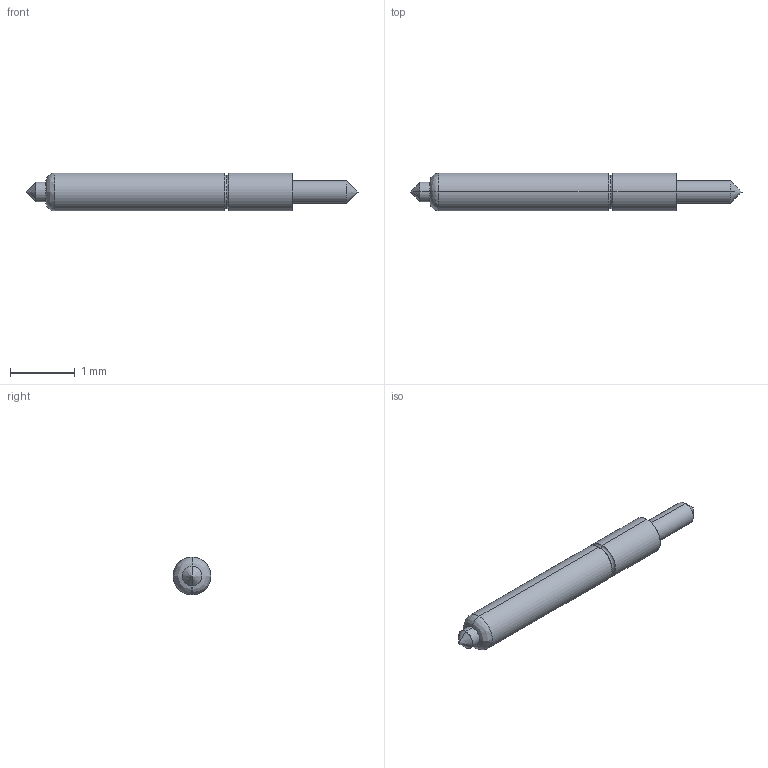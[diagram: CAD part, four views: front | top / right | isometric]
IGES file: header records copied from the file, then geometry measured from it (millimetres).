
Start section: SolidWorks IGES file using analytic representation for surfaces
Global section: file name: Z:\probe solid model mockups\Solidworks models\IGES Files\CSP8-15 IGES files\CSP8-15BB Full.IGS; native system: SolidWorks 2006 by SolidWorks Corporation; preprocessor: SolidWorks 2006 by SolidWorks Corporation; author: tsakatani; date: 080108.152031; units: inch
Bounding box: 5.13 x 0.58 x 0.58 mm (x, y, z)
Surface area: 8.6 mm2 (no closed solid volume)
Topology: 0 solids, 0 shells, 19 faces, 104 edges, 100 vertices
Faces by surface type: revolution 12, bspline 7
